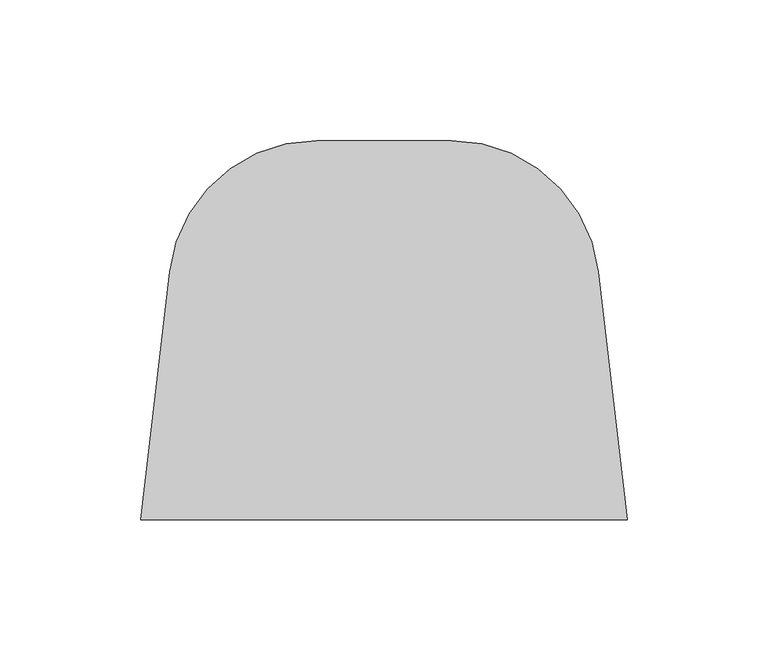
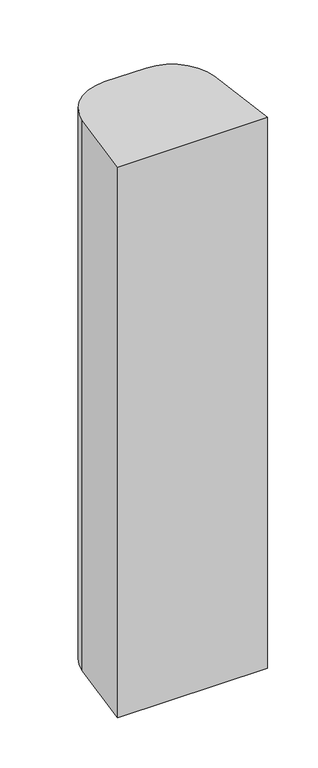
"""IFC4 building model written with IfcOpenShell, lengths in millimetres: flow terminal geometry, Lavatorio-Ferrum-Columna-CKC : Columna Lavatorio."""

from ifc_helpers import new_model, si_unit, point, frame_2d, origin, origin_with_axes, place, context, project, spatial, polyline, circle_curve, trimmed, segment, composite_curve, outline, extrude, source, transform, mapped, element, save


def flow_terminal_78c35d65(model_context):
    return source(origin(), model_context, "Body", "SweptSolid", [
        extrude(outline(composite_curve([segment(polyline([(87.0504048, 0.0), (-85.7235179, 0.0), (-75.4790493, 88.1212181)]), True, "CONTINUOUS"), segment(trimmed(circle_curve(frame_2d((-23.2657856, 82.0512027)), 52.5649122), [point((-75.4790493, 88.1212181))], [point((-23.2657856, 134.6161149))], False, "CARTESIAN"), True, "CONTINUOUS"), segment(polyline([(-23.2657856, 134.6161149), (24.5926725, 134.6161149)]), True, "CONTINUOUS"), segment(trimmed(circle_curve(frame_2d((24.5926725, 82.0512027)), 52.5649122), [point((24.5926725, 134.6161149))], [point((76.8059362, 88.1212181))], False, "CARTESIAN"), True, "CONTINUOUS"), segment(polyline([(76.8059362, 88.1212181), (87.0504048, 0.0)]), True, "CONTINUOUS")], self_intersect=False)), origin_with_axes(), (0.0, 0.0, 1.0), 670.0),
    ])


if __name__ == "__main__":
    model = new_model("IFC4")
    model_context = context("Model", 3, world=origin())
    ifc_project = project(units=[si_unit("LENGTHUNIT", "METRE", prefix="MILLI")], contexts=[model_context])
    site = spatial("IfcSite", under=ifc_project)
    building = spatial("IfcBuilding", under=site)
    placement = place(None, origin())
    flow_terminal_shape = flow_terminal_78c35d65(model_context)
    element("IfcFlowTerminal", 1, ObjectType="Lavatorio-Ferrum-Columna-CKC : Columna Lavatorio", at=placement, inside=building, context=model_context, shape_type="MappedRepresentation", body=[
        mapped(flow_terminal_shape, transform((0.0, 0.0, 0.0), x_axis=(1.0, 0.0, 0.0), y_axis=(0.0, 1.0, 0.0), z_axis=(0.0, 0.0, 1.0))),
    ])
    save(model, "model.ifc")
